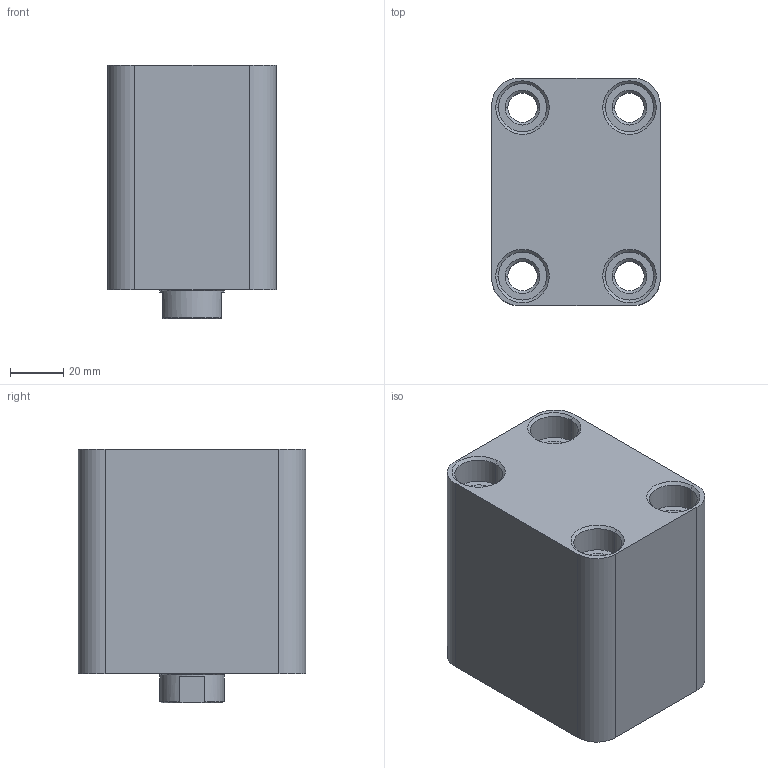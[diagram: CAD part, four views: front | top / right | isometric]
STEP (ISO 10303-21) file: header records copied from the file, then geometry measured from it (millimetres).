
FILE_DESCRIPTION (( 'STEP AP214' ), '1' );
FILE_NAME ('KBZ_02_40_25_30.STEP', '2022-10-02T11:19:23', ( '' ), ( '' ), 'SwSTEP 2.0', 'SolidWorks 2021', '' );
FILE_SCHEMA (( 'AUTOMOTIVE_DESIGN' ));
Length unit declared in the file: millimetre
Products named in the file (9): KBZ_03_40_25_ON_KAPAK; K22-25X35X6; KO-38X3; KBZ_03_40_25_烰_KAPAK; KBZ_02_40_GOVDE_WEB; KBZ_02_40_25_30; 25_28_PAP_25_05; KBZ_02_25_K_MIL_WEB; K05-25X31X4
Assembly tree (8 placements, depth 3):
  KBZ_02_40_25_30
    KBZ_02_40_GOVDE_WEB
    KBZ_03_40_25_烰_KAPAK
      KBZ_03_40_25_ON_KAPAK
      K05-25X31X4
      KO-38X3
      25_28_PAP_25_05
      K22-25X35X6
    KBZ_02_25_K_MIL_WEB
Bounding box: 63 x 85 x 95 mm (x, y, z)
Volume: 373334.5 mm3; surface area: 77233.5 mm2
Topology: 7 solids, 7 shells, 574 faces, 1392 edges, 885 vertices
Faces by surface type: bspline 209, plane 197, cone 84, cylinder 76, torus 8
Entity records: 26690 total; most frequent: CARTESIAN_POINT 14125, ORIENTED_EDGE 2780, DIRECTION 1967, EDGE_CURVE 1390, VERTEX_POINT 885, LINE 707, VECTOR 707, EDGE_LOOP 649
